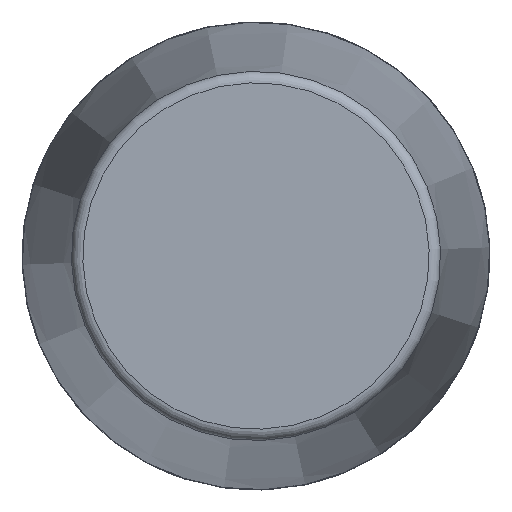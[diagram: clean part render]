
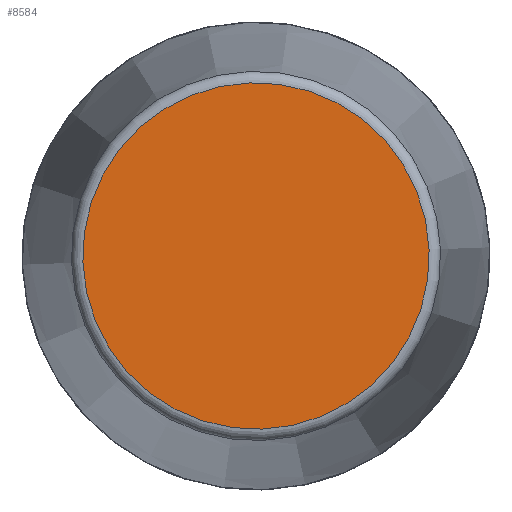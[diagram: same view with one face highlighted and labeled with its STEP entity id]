
A CAD part, front view. The second image highlights one B-rep face of the part: STEP entity #8584.
In plain terms, the highlighted planar face has unit normal (0, -1, 0) as drawn and (1, 0, 0) by its records, which use the part's own axes.
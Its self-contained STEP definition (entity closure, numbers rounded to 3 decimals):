
#2425=PLANE('',#8974);
#2999=FACE_OUTER_BOUND('',#3549,.T.);
#3549=EDGE_LOOP('',(#8082));
#3590=CIRCLE('',#8970,151.674);
#4422=VERTEX_POINT('',#15919);
#5645=EDGE_CURVE('',#4422,#4422,#3590,.T.);
#8082=ORIENTED_EDGE('',*,*,#5645,.F.);
#8584=ADVANCED_FACE('',(#2999),#2425,.T.);
#8970=AXIS2_PLACEMENT_3D('',#15920,#10382,#10383);
#8974=AXIS2_PLACEMENT_3D('',#15926,#10390,#10391);
#10382=DIRECTION('center_axis',(-1.,0.,0.));
#10383=DIRECTION('ref_axis',(0.,0.,
1.));
#10390=DIRECTION('center_axis',(1.,0.,0.));
#10391=DIRECTION('ref_axis',(0.,0.,-1.));
#15919=CARTESIAN_POINT('',(697.5,0.,-151.674));
#15920=CARTESIAN_POINT('Origin',(697.5,0.,0.));
#15926=CARTESIAN_POINT('Origin',(697.5,0.,0.));
